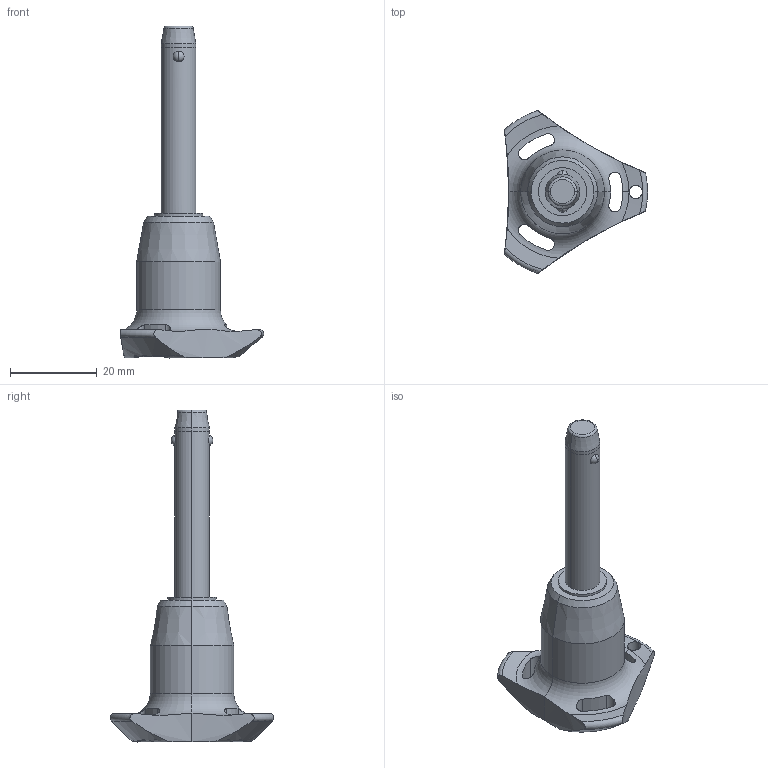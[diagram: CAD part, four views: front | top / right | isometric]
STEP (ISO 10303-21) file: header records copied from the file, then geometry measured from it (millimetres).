
FILE_DESCRIPTION (( 'STEP AP203' ), '1' );
FILE_NAME ('QR1726.M08-035-T.step', '2025-11-13T11:06:18', ( '' ), ( '' ), 'SwSTEP 2.0', 'SolidWorks 2019', '' );
FILE_SCHEMA (( 'CONFIG_CONTROL_DESIGN' ));
Length unit declared in the file: millimetre
Products named in the file (1): QR1726.M08-035-T
Bounding box: 33 x 37.51 x 76.5 mm (x, y, z)
Volume: 12409.3 mm3; surface area: 4934.4 mm2
Topology: 1 solids, 1 shells, 68 faces, 180 edges, 113 vertices
Faces by surface type: cylinder 32, cone 14, torus 11, sphere 6, plane 5
Entity records: 2826 total; most frequent: CARTESIAN_POINT 1086, ORIENTED_EDGE 360, DIRECTION 347, EDGE_CURVE 180, AXIS2_PLACEMENT_3D 154, VERTEX_POINT 113, CIRCLE 85, EDGE_LOOP 75
